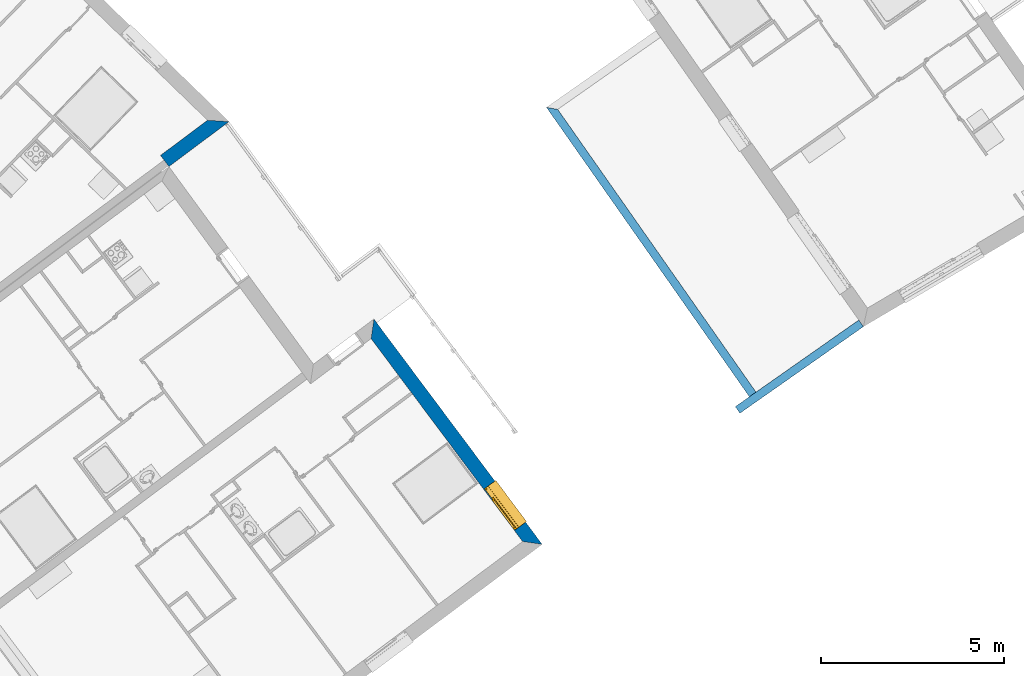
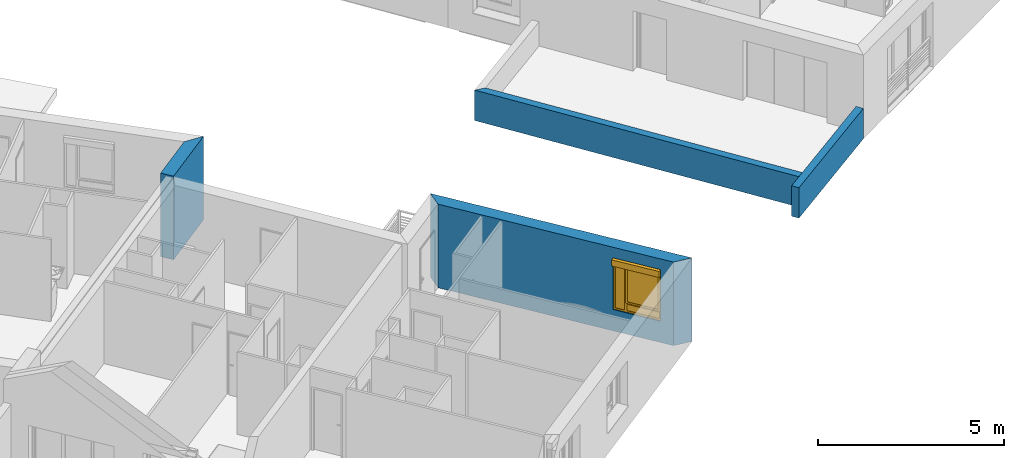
# One storey, part 23 of 121: 4 walls, 1 window, 1 opening.
"""IFC2X3 building model written with IfcOpenShell, lengths in metres."""

from ifc_helpers import new_model, entity, si_unit, converted_unit, derived_unit, money_unit, direction, frame, origin_with_axes, place, context, subcontext, project, spatial, polyline, outline, extrude, open_shell, faceted_brep, surface_model, source, transform, mapped, material, layer, layer_set, layer_usage, type_object, element, fill, save


model = new_model("IFC2X3")

# Units and contexts
model_context = context("Model", 3, precision=1e-05, world=origin_with_axes(), true_north=direction((0.0, 1.0)))
body_context = subcontext(model_context, "Body", "Model", "MODEL_VIEW")
ifc_project = project(units=[si_unit("LENGTHUNIT", "METRE"), si_unit("AREAUNIT", "SQUARE_METRE"), si_unit("VOLUMEUNIT", "CUBIC_METRE"), converted_unit("PLANEANGLEUNIT", "DEGREE", entity("IfcPlaneAngleMeasure", 0.0174532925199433), si_unit("PLANEANGLEUNIT", "RADIAN"), dimensions=[0, 0, 0, 0, 0, 0, 0]), money_unit("CHF"), converted_unit("TIMEUNIT", "Year", entity("IfcTimeMeasure", 31557600.0), si_unit("TIMEUNIT", "SECOND"), dimensions=[0, 0, 1, 0, 0, 0, 0]), si_unit("MASSUNIT", "GRAM", prefix="KILO"), si_unit("THERMODYNAMICTEMPERATUREUNIT", "DEGREE_CELSIUS"), si_unit("LUMINOUSINTENSITYUNIT", "LUMEN"), si_unit("ENERGYUNIT", "JOULE", prefix="MEGA"), derived_unit("THERMALCONDUCTANCEUNIT", [(si_unit("POWERUNIT", "WATT"), 1), (si_unit("LENGTHUNIT", "METRE"), -1), (si_unit("THERMODYNAMICTEMPERATUREUNIT", "KELVIN"), -1)]), derived_unit("SPECIFICHEATCAPACITYUNIT", [(si_unit("ENERGYUNIT", "JOULE"), 1), (si_unit("MASSUNIT", "GRAM", prefix="KILO"), -1), (si_unit("THERMODYNAMICTEMPERATUREUNIT", "KELVIN"), -1)]), derived_unit("MASSDENSITYUNIT", [(si_unit("MASSUNIT", "GRAM", prefix="KILO"), 1), (si_unit("VOLUMEUNIT", "CUBIC_METRE"), -1)])], contexts=[model_context])

# Site, building, storey
site_placement = place(None, origin_with_axes())
site = spatial("IfcSite", under=ifc_project, at=site_placement, Name="Site", CompositionType="ELEMENT")
building_placement = place(site_placement, origin_with_axes())
building = spatial("IfcBuilding", under=site, at=building_placement, Name="Bâtiment", CompositionType="ELEMENT")
storey_placement = place(building_placement, frame((0.0, 0.0, 2.75), z_axis=(0.0, 0.0, 1.0), x_axis=(1.0, 0.0, 0.0)))
storey = spatial("IfcBuildingStorey", under=building, at=storey_placement, Name="Etage 1", CompositionType="ELEMENT", Elevation=2.75)

# Wall
ifc_material_1 = material(Name="Parpaing 312445824")
ifc_layer_1 = layer(ifc_material_1, 0.22, ventilated="UNKNOWN")
ifc_material_2 = material(Name="Isolant styromousse 301821074")
ifc_layer_2 = layer(ifc_material_2, 0.16, ventilated="UNKNOWN")
ifc_layer_set_1 = layer_set([ifc_layer_1, ifc_layer_2], Name="isol int 22+16 0836643197")
ifc_layer_usage_1 = layer_usage(ifc_layer_set_1, "AXIS2", "NEGATIVE", 0.0)
wall_type_1 = type_object("IfcWallType", Name="isol int 22+16 0836643197 380", PredefinedType="NOTDEFINED")
wall_1_placement = place(storey_placement, frame((9539.15053135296, -1068.498546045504, 57.7), z_axis=(0.0, 0.0, 1.0), x_axis=(-0.8011628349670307, -0.5984464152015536, 0.0)))
element("IfcWallStandardCase", 1, at=wall_1_placement, inside=storey, type_object=wall_type_1, material=ifc_layer_usage_1, Name="Mur-116", context=body_context, shape_type="SweptSolid", body=[
    extrude(outline(polyline([(0.4460678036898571, -0.3800000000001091), (2.046921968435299, -0.3800000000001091), (2.046921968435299, 0.0), (0.0, 0.0), (0.4460678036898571, -0.3800000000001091)])), origin_with_axes(), (0.0, 0.0, 1.0), 2.75),
])

# Wall, opening, window
ifc_layer_usage_2 = layer_usage(ifc_layer_set_1, "AXIS2", "NEGATIVE", 0.0)
wall_2_placement = place(storey_placement, frame((9543.102010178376, -1073.884767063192, 57.7), z_axis=(0.0, 0.0, 1.0), x_axis=(0.5984464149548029, -0.8011628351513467, 0.0)))
wall_2 = element("IfcWallStandardCase", 2, at=wall_2_placement, inside=storey, type_object=wall_type_1, material=ifc_layer_usage_2, Name="Mur-114", context=body_context, shape_type="SweptSolid", body=[
    extrude(outline(polyline([(0.3800000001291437, -0.3799999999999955), (7.289914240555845, -0.3799999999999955), (7.66991424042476, 0.0), (0.0, 0.0), (0.3800000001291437, -0.3799999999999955)])), origin_with_axes(), (0.0, 0.0, 1.0), 2.75),
])
opening_placement = place(wall_2_placement, frame((6.213971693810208, 0.0, 0.7000000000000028), z_axis=(0.0, 0.0, 1.0), x_axis=(1.0, 0.0, 0.0)))
opening = element("IfcOpeningElement", 3, at=opening_placement, cuts=wall_2, Name="Fen-045", context=body_context, shape_type="Brep", body=[
    faceted_brep([(-0.7000000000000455, -0.2199999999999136, 1.5), (0.6999999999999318, -0.2200000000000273, 1.5), (0.6999999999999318, 3.678363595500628, 1.5), (-0.7000000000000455, 3.678363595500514, 1.5), (-0.7000000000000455, -0.2199999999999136, 1.700000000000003), (0.6999999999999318, -0.2200000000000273, 1.700000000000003), (0.6999999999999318, -0.2999999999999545, 1.5), (0.6999999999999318, -0.2999999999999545, 0.0), (0.6999999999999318, 3.678363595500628, 0.0), (-0.7000000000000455, 3.678363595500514, 0.0), (-0.6999999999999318, -0.3000000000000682, 1.5), (-0.6999999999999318, -0.3000000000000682, 0.0), (-0.7000000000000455, -0.4800000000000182, 1.5), (-0.7000000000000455, -0.4800000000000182, 1.700000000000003), (0.7000000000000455, -0.4800000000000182, 1.700000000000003), (0.7000000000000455, -0.4800000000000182, 1.5), (0.7000000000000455, -4.058363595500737, 1.5), (0.7000000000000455, -4.058363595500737, 0.0), (-0.7000000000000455, -4.058363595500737, 0.0), (-0.7000000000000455, -4.058363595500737, 1.5)], [[[0, 1, 2, 3]], [[1, 0, 4, 5]], [[1, 6, 7, 8, 2]], [[2, 8, 9, 3]], [[10, 0, 3, 9, 11]], [[0, 10, 12, 13, 4]], [[4, 13, 14, 5]], [[6, 1, 5, 14, 15]], [[6, 15, 16, 17, 7]], [[7, 11, 9, 8]], [[12, 10, 11, 18, 19]], [[12, 15, 14, 13]], [[15, 12, 19, 16]], [[19, 18, 17, 16]], [[11, 7, 17, 18]]]),
])
window_style = type_object("IfcWindowStyle", Name="Fenêtre variable 27", ConstructionType="NOTDEFINED", OperationType="TRIPLE_PANEL_RIGHT", ParameterTakesPrecedence=False, Sizeable=False)
shared_shape = source(origin_with_axes(), body_context, "Body", "SurfaceModel", [
    surface_model("IfcShellBasedSurfaceModel", [(-0.7, -0.05100000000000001, 0.05), (-0.7, -0.05100000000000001, 0.04), (0.7, -0.05100000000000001, 0.04000000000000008), (0.7, -0.05100000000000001, 0.05000000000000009), (-0.7, -0.3799999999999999, 0.02899999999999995), (0.7, -0.3799999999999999, 0.02900000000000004), (-0.7, -0.3799999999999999, 0.008999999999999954), (0.7, -0.3799999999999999, 0.00900000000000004), (-0.7, -0.3699999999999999, 0.01899999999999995), (0.7, -0.3699999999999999, 0.01900000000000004)], [open_shell([[[0, 1, 2, 3]], [[1, 4, 5, 2]], [[4, 6, 7, 5]], [[6, 8, 9, 7]]])]),
    faceted_brep([(-0.7, -0.13, 1.7), (-0.697, -0.13, 1.7), (-0.697, 0.13, 1.7), (-0.7, 0.13, 1.7), (-0.7, -0.13, 1.5), (-0.697, -0.13, 1.5), (-0.697, 0.13, 1.5), (-0.7, 0.13, 1.5)], [[[0, 1, 2, 3]], [[4, 5, 1, 0]], [[1, 5, 6, 2]], [[3, 2, 6, 7]], [[0, 3, 7, 4]], [[7, 6, 5, 4]]]),
    faceted_brep([(0.6970000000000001, -0.1299999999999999, 1.7), (0.7000000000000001, -0.1299999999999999, 1.7), (0.7000000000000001, 0.1300000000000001, 1.7), (0.6970000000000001, 0.1300000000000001, 1.7), (0.6970000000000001, -0.1299999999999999, 1.5), (0.7000000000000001, -0.1299999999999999, 1.5), (0.7000000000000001, 0.1300000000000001, 1.5), (0.6970000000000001, 0.1300000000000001, 1.5)], [[[0, 1, 2, 3]], [[4, 5, 1, 0]], [[1, 5, 6, 2]], [[3, 2, 6, 7]], [[0, 3, 7, 4]], [[7, 6, 5, 4]]]),
    faceted_brep([(-0.697, -0.13, 1.5), (0.697, -0.1299999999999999, 1.5), (0.697, -0.1299999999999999, 1.7), (-0.697, -0.13, 1.7), (-0.697, -0.127, 1.5), (0.697, -0.1269999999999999, 1.5), (0.697, -0.1269999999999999, 1.697), (0.697, 0.1270000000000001, 1.697), (0.697, 0.1270000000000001, 1.503), (0.697, -0.1079999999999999, 1.503), (0.697, -0.1079999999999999, 1.5), (0.697, 0.1300000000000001, 1.5), (0.697, 0.1300000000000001, 1.7), (-0.697, 0.13, 1.7), (-0.697, 0.13, 1.5), (-0.697, -0.108, 1.5), (-0.697, -0.108, 1.503), (-0.697, 0.127, 1.503), (-0.697, 0.127, 1.697), (-0.697, -0.127, 1.697)], [[[0, 1, 2, 3]], [[4, 5, 1, 0]], [[1, 5, 6, 7, 8, 9, 10, 11, 12, 2]], [[3, 2, 12, 13]], [[0, 3, 13, 14, 15, 16, 17, 18, 19, 4]], [[19, 6, 5, 4]], [[18, 7, 6, 19]], [[17, 8, 7, 18]], [[16, 9, 8, 17]], [[15, 10, 9, 16]], [[14, 11, 10, 15]], [[13, 12, 11, 14]]]),
    faceted_brep([(-0.694, -0.08075423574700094, 1.585760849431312), (-0.694, -0.08200000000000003, 1.6), (-0.694, -0.0807542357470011, 1.614239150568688), (-0.694, -0.07705479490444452, 1.628045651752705), (-0.694, -0.07101408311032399, 1.641), (-0.694, -0.06281564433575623, 1.652708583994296), (-0.694, -0.05270858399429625, 1.662815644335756), (-0.694, -0.04100000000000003, 1.671014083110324), (-0.694, -0.02804565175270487, 1.677054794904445), (-0.694, -0.01423915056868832, 1.680754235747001), (-0.694, 0.0, 1.682), (-0.694, 0.01423915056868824, 1.680754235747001), (-0.694, 0.02804565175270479, 1.677054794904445), (-0.694, 0.04099999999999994, 1.671014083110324), (-0.694, 0.05270858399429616, 1.662815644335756), (-0.694, 0.06281564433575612, 1.652708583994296), (-0.694, 0.07101408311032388, 1.641), (-0.694, 0.0770547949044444, 1.628045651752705), (-0.694, 0.08075423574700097, 1.614239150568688), (-0.694, 0.0819999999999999, 1.6), (-0.694, 0.08075423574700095, 1.585760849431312), (-0.694, 0.07705479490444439, 1.571954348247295), (-0.694, 0.07101408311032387, 1.559), (-0.694, 0.06281564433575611, 1.547291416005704), (-0.694, 0.05270858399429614, 1.537184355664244), (-0.694, 0.04099999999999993, 1.528985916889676), (-0.694, 0.02804565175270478, 1.522945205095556), (-0.694, 0.01423915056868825, 1.519245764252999), (-0.694, 0.0, 1.518), (-0.694, -0.01423915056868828, 1.519245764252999), (-0.694, -0.02804565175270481, 1.522945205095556), (-0.694, -0.04099999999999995, 1.528985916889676), (-0.694, -0.05270858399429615, 1.537184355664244), (-0.694, -0.06281564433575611, 1.547291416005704), (-0.694, -0.07101408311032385, 1.559), (-0.694, -0.07705479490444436, 1.571954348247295), (0.694, -0.08075423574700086, 1.585760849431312), (0.694, -0.08199999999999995, 1.6), (0.694, -0.08075423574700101, 1.614239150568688), (0.694, -0.07705479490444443, 1.628045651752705), (0.694, -0.07101408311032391, 1.641), (0.694, -0.06281564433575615, 1.652708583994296), (0.694, -0.05270858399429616, 1.662815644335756), (0.694, -0.04099999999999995, 1.671014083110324), (0.694, -0.02804565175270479, 1.677054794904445), (0.694, -0.01423915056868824, 1.680754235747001), (0.694, 0.0, 1.682), (0.694, 0.01423915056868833, 1.680754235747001), (0.694, 0.02804565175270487, 1.677054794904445), (0.694, 0.04100000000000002, 1.671014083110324), (0.694, 0.05270858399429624, 1.662815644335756), (0.694, 0.0628156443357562, 1.652708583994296), (0.694, 0.07101408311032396, 1.641), (0.694, 0.07705479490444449, 1.628045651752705), (0.694, 0.08075423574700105, 1.614239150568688), (0.694, 0.08199999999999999, 1.6), (0.694, 0.08075423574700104, 1.585760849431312), (0.694, 0.07705479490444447, 1.571954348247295), (0.694, 0.07101408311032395, 1.559), (0.694, 0.06281564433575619, 1.547291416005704), (0.694, 0.05270858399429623, 1.537184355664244), (0.694, 0.04100000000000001, 1.528985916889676), (0.694, 0.02804565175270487, 1.522945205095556), (0.694, 0.01423915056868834, 1.519245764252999), (0.694, 0.0, 1.518), (0.694, -0.0142391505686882, 1.519245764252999), (0.694, -0.02804565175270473, 1.522945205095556), (0.694, -0.04099999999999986, 1.528985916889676), (0.694, -0.05270858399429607, 1.537184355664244), (0.694, -0.06281564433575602, 1.547291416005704), (0.694, -0.07101408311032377, 1.559), (0.694, -0.07705479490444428, 1.571954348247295)], [[[0, 1, 2, 3, 4, 5, 6, 7, 8, 9, 10, 11, 12, 13, 14, 15, 16, 17, 18, 19, 20, 21, 22, 23, 24, 25, 26, 27, 28, 29, 30, 31, 32, 33, 34, 35]], [[0, 36, 37, 1]], [[1, 37, 38, 2]], [[2, 38, 39, 3]], [[3, 39, 40, 4]], [[4, 40, 41, 5]], [[5, 41, 42, 6]], [[6, 42, 43, 7]], [[7, 43, 44, 8]], [[8, 44, 45, 9]], [[9, 45, 46, 10]], [[10, 46, 47, 11]], [[11, 47, 48, 12]], [[12, 48, 49, 13]], [[13, 49, 50, 14]], [[14, 50, 51, 15]], [[15, 51, 52, 16]], [[16, 52, 53, 17]], [[17, 53, 54, 18]], [[18, 54, 55, 19]], [[19, 55, 56, 20]], [[20, 56, 57, 21]], [[21, 57, 58, 22]], [[22, 58, 59, 23]], [[23, 59, 60, 24]], [[24, 60, 61, 25]], [[25, 61, 62, 26]], [[26, 62, 63, 27]], [[27, 63, 64, 28]], [[28, 64, 65, 29]], [[29, 65, 66, 30]], [[30, 66, 67, 31]], [[31, 67, 68, 32]], [[32, 68, 69, 33]], [[33, 69, 70, 34]], [[34, 70, 71, 35]], [[35, 71, 36, 0]], [[36, 71, 70, 69, 68, 67, 66, 65, 64, 63, 62, 61, 60, 59, 58, 57, 56, 55, 54, 53, 52, 51, 50, 49, 48, 47, 46, 45, 44, 43, 42, 41, 40, 39, 38, 37]]]),
    faceted_brep([(0.7, -0.105, 0.03), (0.7, -0.1049999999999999, 1.5), (0.7, -0.1299999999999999, 1.5), (0.7, -0.13, 0.03), (0.6749999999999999, -0.105, 0.03), (0.6749999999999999, -0.1049999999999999, 1.5), (0.6749999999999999, -0.1079999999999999, 1.5), (0.697, -0.1079999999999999, 1.5), (0.697, -0.1269999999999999, 1.5), (0.6749999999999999, -0.1269999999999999, 1.5), (0.6749999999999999, -0.1299999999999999, 1.5), (0.6749999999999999, -0.13, 0.03), (0.6749999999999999, -0.127, 0.03), (0.697, -0.127, 0.03), (0.697, -0.108, 0.03), (0.6749999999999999, -0.108, 0.03)], [[[0, 1, 2, 3]], [[4, 5, 1, 0]], [[1, 5, 6, 7, 8, 9, 10, 2]], [[3, 2, 10, 11]], [[0, 3, 11, 12, 13, 14, 15, 4]], [[15, 6, 5, 4]], [[14, 7, 6, 15]], [[13, 8, 7, 14]], [[12, 9, 8, 13]], [[11, 10, 9, 12]]]),
    faceted_brep([(-0.7, -0.105, 0.03), (-0.7, -0.13, 0.03), (-0.7, -0.1299999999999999, 1.5), (-0.7, -0.1049999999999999, 1.5), (-0.6749999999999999, -0.105, 0.03), (-0.6749999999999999, -0.108, 0.03), (-0.697, -0.108, 0.03), (-0.697, -0.127, 0.03), (-0.6749999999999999, -0.127, 0.03), (-0.6749999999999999, -0.13, 0.03), (-0.6749999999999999, -0.1299999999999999, 1.5), (-0.6749999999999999, -0.1269999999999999, 1.5), (-0.697, -0.1269999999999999, 1.5), (-0.697, -0.1079999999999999, 1.5), (-0.6749999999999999, -0.1079999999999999, 1.5), (-0.6749999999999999, -0.1049999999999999, 1.5)], [[[0, 1, 2, 3]], [[0, 4, 5, 6, 7, 8, 9, 1]], [[1, 9, 10, 2]], [[3, 2, 10, 11, 12, 13, 14, 15]], [[4, 0, 3, 15]], [[5, 4, 15, 14]], [[6, 5, 14, 13]], [[7, 6, 13, 12]], [[8, 7, 12, 11]], [[9, 8, 11, 10]]]),
    surface_model("IfcShellBasedSurfaceModel", [(-0.697, -0.115, 1.6), (0.697, -0.1149999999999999, 1.6), (0.697, -0.1199999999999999, 1.6), (-0.697, -0.12, 1.6), (-0.697, -0.115, 1.6), (-0.697, -0.12, 1.6), (0.697, -0.12, 1.6), (0.697, -0.1149999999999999, 1.6)], [open_shell([[[0, 1, 2, 3]], [[4, 5, 6, 7]]])]),
    faceted_brep([(-0.697, -0.115, 1.6), (0.697, -0.1149999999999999, 1.6), (0.697, -0.1166666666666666, 1.583333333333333), (-0.697, -0.1166666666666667, 1.583333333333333), (-0.697, -0.12, 1.6), (0.697, -0.1199999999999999, 1.6), (0.697, -0.1216666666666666, 1.583333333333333), (0.697, -0.1216666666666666, 1.566666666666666), (0.697, -0.1199999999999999, 1.55), (0.697, -0.1149999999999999, 1.55), (0.697, -0.1166666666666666, 1.566666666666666), (-0.697, -0.1166666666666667, 1.566666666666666), (-0.697, -0.115, 1.55), (-0.697, -0.12, 1.55), (-0.697, -0.1216666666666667, 1.566666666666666), (-0.697, -0.1216666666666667, 1.583333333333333)], [[[0, 1, 2, 3]], [[4, 5, 1, 0]], [[1, 5, 6, 7, 8, 9, 10, 2]], [[3, 2, 10, 11]], [[0, 3, 11, 12, 13, 14, 15, 4]], [[15, 6, 5, 4]], [[14, 7, 6, 15]], [[13, 8, 7, 14]], [[12, 9, 8, 13]], [[11, 10, 9, 12]]]),
    faceted_brep([(-0.697, -0.115, 1.55), (0.697, -0.1149999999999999, 1.55), (0.697, -0.1166666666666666, 1.533333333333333), (-0.697, -0.1166666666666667, 1.533333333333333), (-0.697, -0.12, 1.55), (0.697, -0.1199999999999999, 1.55), (0.697, -0.1216666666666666, 1.533333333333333), (0.697, -0.1216666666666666, 1.516666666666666), (0.697, -0.1199999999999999, 1.5), (0.697, -0.1149999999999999, 1.5), (0.697, -0.1166666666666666, 1.516666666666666), (-0.697, -0.1166666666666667, 1.516666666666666), (-0.697, -0.115, 1.5), (-0.697, -0.12, 1.5), (-0.697, -0.1216666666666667, 1.516666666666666), (-0.697, -0.1216666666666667, 1.533333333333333)], [[[0, 1, 2, 3]], [[4, 5, 1, 0]], [[1, 5, 6, 7, 8, 9, 10, 2]], [[3, 2, 10, 11]], [[0, 3, 11, 12, 13, 14, 15, 4]], [[15, 6, 5, 4]], [[14, 7, 6, 15]], [[13, 8, 7, 14]], [[12, 9, 8, 13]], [[11, 10, 9, 12]]]),
    faceted_brep([(-0.6749999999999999, 0.0, 1.45), (-0.7, 0.0, 1.45), (-0.7, -0.05000000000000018, 1.45), (-0.6499999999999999, -0.05000000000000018, 1.45), (-0.6499999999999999, -0.02500000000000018, 1.45), (-0.6749999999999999, -0.02500000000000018, 1.45), (-0.6749999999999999, 0.0, 0.3099999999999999), (-0.6499999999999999, 0.0, 0.3099999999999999), (-0.6499999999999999, 0.0, 0.265), (-0.6499999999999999, 0.0, 0.05000000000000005), (-0.7, 0.0, 0.05000000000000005), (-0.7, -0.05000000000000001, 0.05000000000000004), (-0.6499999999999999, -0.05000000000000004, 0.335), (-0.6499999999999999, -0.05000000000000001, 0.05000000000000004), (-0.6499999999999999, -0.05000000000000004, 0.265), (-0.6499999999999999, -0.02500000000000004, 0.335), (-0.6499999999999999, -0.02500000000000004, 0.3099999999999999), (-0.6749999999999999, -0.02500000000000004, 0.3099999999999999)], [[[0, 1, 2, 3, 4, 5]], [[6, 7, 8, 9, 10, 1, 0]], [[1, 10, 11, 2]], [[12, 3, 2, 11, 13, 14]], [[4, 3, 12, 15]], [[15, 16, 17, 5, 4]], [[5, 17, 6, 0]], [[6, 17, 16, 7]], [[16, 15, 12, 14, 8, 7]], [[9, 8, 14, 13]], [[10, 9, 13, 11]]]),
    faceted_brep([(0.3068894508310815, -0.02500000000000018, 1.45), (0.3068894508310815, -0.05000000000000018, 1.45), (0.3768894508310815, -0.05000000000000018, 1.45), (0.3768894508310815, 0.0, 1.45), (0.3318894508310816, 0.0, 1.45), (0.3318894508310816, -0.02500000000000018, 1.45), (0.3068894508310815, -0.02500000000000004, 0.335), (0.3068894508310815, -0.05000000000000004, 0.335), (0.3068894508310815, -0.05000000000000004, 0.265), (0.3068894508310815, -0.05000000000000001, 0.05000000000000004), (0.3768894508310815, -0.05000000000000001, 0.05000000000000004), (0.3768894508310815, 0.0, 0.05000000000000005), (0.3318894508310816, 0.0, 0.3099999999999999), (0.3068894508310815, 0.0, 0.05000000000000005), (0.3068894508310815, 0.0, 0.265), (0.3068894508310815, 0.0, 0.3099999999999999), (0.3318894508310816, -0.02500000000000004, 0.3099999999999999), (0.3068894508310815, -0.02500000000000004, 0.3099999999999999)], [[[0, 1, 2, 3, 4, 5]], [[6, 7, 1, 0]], [[8, 9, 10, 2, 1, 7]], [[11, 3, 2, 10]], [[12, 4, 3, 11, 13, 14, 15]], [[12, 16, 5, 4]], [[5, 16, 17, 6, 0]], [[17, 15, 14, 8, 7, 6]], [[14, 13, 9, 8]], [[13, 11, 10, 9]], [[15, 17, 16, 12]]]),
    faceted_brep([(-0.6499999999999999, -0.02500000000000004, 0.335), (-0.6499999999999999, -0.05000000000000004, 0.335), (0.3068894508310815, -0.05000000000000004, 0.335), (0.3068894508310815, -0.02500000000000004, 0.335), (-0.6499999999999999, -0.02500000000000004, 0.3099999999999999), (-0.6499999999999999, 0.0, 0.3099999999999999), (-0.6499999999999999, 0.0, 0.265), (-0.6499999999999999, -0.05000000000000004, 0.265), (0.3068894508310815, -0.05000000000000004, 0.265), (0.3068894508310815, -0.02500000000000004, 0.3099999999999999), (0.3068894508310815, 0.0, 0.265), (0.3068894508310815, 0.0, 0.3099999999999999)], [[[0, 1, 2, 3]], [[4, 5, 6, 7, 1, 0]], [[2, 1, 7, 8]], [[9, 3, 2, 8, 10, 11]], [[9, 4, 0, 3]], [[5, 4, 9, 11]], [[11, 10, 6, 5]], [[6, 10, 8, 7]]]),
    faceted_brep([(-0.6749999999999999, 0.0, 1.45), (-0.7, 0.0, 1.45), (-0.7, 0.0, 1.5), (0.7, 0.0, 1.5), (0.7, 0.0, 1.45), (0.6499999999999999, 0.0, 1.45), (0.3768894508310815, 0.0, 1.45), (0.3318894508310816, 0.0, 1.45), (0.3318894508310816, 0.0, 1.475), (-0.6749999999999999, 0.0, 1.475), (-0.6749999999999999, -0.02500000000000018, 1.45), (-0.6499999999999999, -0.02500000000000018, 1.45), (-0.6499999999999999, -0.05000000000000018, 1.45), (-0.7, -0.05000000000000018, 1.45), (-0.7, -0.05000000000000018, 1.5), (0.7, -0.05000000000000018, 1.5), (0.7, -0.05000000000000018, 1.45), (0.6499999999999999, -0.05000000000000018, 1.45), (0.3768894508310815, -0.05000000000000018, 1.45), (0.3318894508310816, -0.02500000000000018, 1.45), (0.3068894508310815, -0.05000000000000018, 1.45), (0.3068894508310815, -0.02500000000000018, 1.45), (0.3318894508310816, -0.02500000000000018, 1.475), (-0.6749999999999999, -0.02500000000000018, 1.475)], [[[0, 1, 2, 3, 4, 5, 6, 7, 8, 9]], [[10, 11, 12, 13, 1, 0]], [[2, 1, 13, 14]], [[3, 2, 14, 15]], [[4, 3, 15, 16]], [[5, 4, 16, 17]], [[6, 5, 17, 18]], [[19, 7, 6, 18, 20, 21]], [[7, 19, 22, 8]], [[8, 22, 23, 9]], [[9, 23, 10, 0]], [[21, 11, 10, 23, 22, 19]], [[21, 20, 12, 11]], [[18, 17, 16, 15, 14, 13, 12, 20]]]),
    faceted_brep([(0.6499999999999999, -0.05000000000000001, 0.05), (0.6499999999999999, 0.0, 0.05000000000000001), (0.7, 0.0, 0.05000000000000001), (0.7, -0.05000000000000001, 0.05), (0.6499999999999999, -0.05000000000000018, 1.45), (0.6499999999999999, 0.0, 1.45), (0.7, 0.0, 1.45), (0.7, -0.05000000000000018, 1.45)], [[[0, 1, 2, 3]], [[4, 5, 1, 0]], [[1, 5, 6, 2]], [[3, 2, 6, 7]], [[0, 3, 7, 4]], [[7, 6, 5, 4]]]),
    faceted_brep([(-0.6499999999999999, -0.05000000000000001, 0.05), (-0.6499999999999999, 0.0, 0.05000000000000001), (-0.7, 0.0, 0.05000000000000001), (-0.7, -0.05000000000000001, 0.05), (0.3068894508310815, -0.05000000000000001, 0.05), (0.3068894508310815, 0.0, 0.05000000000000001), (0.3768894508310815, 0.0, 0.05000000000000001), (0.6499999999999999, 0.0, 0.05000000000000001), (0.7, 0.0, 0.05000000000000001), (0.7, 0.0, 0.0), (-0.7, 0.0, 0.0), (-0.7, -0.05, 0.0), (0.7, -0.05, 0.0), (0.7, -0.05000000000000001, 0.05), (0.6499999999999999, -0.05000000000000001, 0.05), (0.3768894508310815, -0.05000000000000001, 0.05)], [[[0, 1, 2, 3]], [[4, 5, 1, 0]], [[1, 5, 6, 7, 8, 9, 10, 2]], [[3, 2, 10, 11]], [[0, 3, 11, 12, 13, 14, 15, 4]], [[15, 6, 5, 4]], [[14, 7, 6, 15]], [[13, 8, 7, 14]], [[12, 9, 8, 13]], [[11, 10, 9, 12]]]),
    faceted_brep([(-0.625, -0.02500000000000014, 1.425), (-0.625, 0.02499999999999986, 1.425), (-0.6749999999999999, 0.02499999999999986, 1.425), (-0.6749999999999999, -0.02500000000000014, 1.425), (-0.625, -0.02500000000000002, 0.3599999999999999), (-0.625, 0.02499999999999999, 0.3599999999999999), (-0.6749999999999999, 0.02499999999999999, 0.3599999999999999), (-0.6749999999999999, -0.02500000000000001, 0.3599999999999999)], [[[0, 1, 2, 3]], [[4, 5, 1, 0]], [[1, 5, 6, 2]], [[3, 2, 6, 7]], [[0, 3, 7, 4]], [[7, 6, 5, 4]]]),
    faceted_brep([(0.2818894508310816, -0.02500000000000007, 0.3599999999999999), (0.2818894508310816, 0.02499999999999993, 0.3599999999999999), (0.3318894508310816, 0.02499999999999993, 0.3599999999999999), (0.3318894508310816, -0.02500000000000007, 0.3599999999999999), (0.2818894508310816, -0.0250000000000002, 1.425), (0.2818894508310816, 0.0249999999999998, 1.425), (0.3318894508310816, 0.0249999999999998, 1.425), (0.3318894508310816, -0.0250000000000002, 1.425)], [[[0, 1, 2, 3]], [[4, 5, 1, 0]], [[1, 5, 6, 2]], [[3, 2, 6, 7]], [[0, 3, 7, 4]], [[7, 6, 5, 4]]]),
    faceted_brep([(0.3318894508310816, -0.02500000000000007, 0.3099999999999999), (0.3318894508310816, 0.02499999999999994, 0.3099999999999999), (0.3318894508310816, 0.02499999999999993, 0.3599999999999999), (0.3318894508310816, -0.02500000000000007, 0.3599999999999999), (-0.6749999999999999, -0.025, 0.3099999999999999), (-0.6749999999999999, 0.02499999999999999, 0.3099999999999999), (-0.6749999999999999, 0.02499999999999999, 0.3599999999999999), (-0.625, 0.02499999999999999, 0.3599999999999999), (0.2818894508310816, 0.02499999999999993, 0.3599999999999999), (0.2818894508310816, -0.02500000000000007, 0.3599999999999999), (-0.625, -0.02500000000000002, 0.3599999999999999), (-0.6749999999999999, -0.02500000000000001, 0.3599999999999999)], [[[0, 1, 2, 3]], [[4, 5, 1, 0]], [[1, 5, 6, 7, 8, 2]], [[3, 2, 8, 9]], [[0, 3, 9, 10, 11, 4]], [[11, 6, 5, 4]], [[10, 7, 6, 11]], [[9, 8, 7, 10]]]),
    faceted_brep([(-0.6749999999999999, -0.02500000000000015, 1.475), (-0.6749999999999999, 0.02499999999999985, 1.475), (-0.6749999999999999, 0.02499999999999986, 1.425), (-0.6749999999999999, -0.02500000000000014, 1.425), (0.3318894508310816, -0.02500000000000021, 1.475), (0.3318894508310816, 0.02499999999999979, 1.475), (0.3318894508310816, 0.0249999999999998, 1.425), (0.2818894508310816, 0.0249999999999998, 1.425), (-0.625, 0.02499999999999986, 1.425), (-0.625, -0.02500000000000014, 1.425), (0.2818894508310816, -0.0250000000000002, 1.425), (0.3318894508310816, -0.0250000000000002, 1.425)], [[[0, 1, 2, 3]], [[4, 5, 1, 0]], [[1, 5, 6, 7, 8, 2]], [[3, 2, 8, 9]], [[0, 3, 9, 10, 11, 4]], [[11, 6, 5, 4]], [[10, 7, 6, 11]], [[9, 8, 7, 10]]]),
    surface_model("IfcShellBasedSurfaceModel", [(-0.625, -0.01000000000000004, 0.3599999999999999), (0.2818894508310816, -0.01000000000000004, 0.3599999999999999), (0.2818894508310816, -0.01000000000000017, 1.425), (-0.625, -0.01000000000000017, 1.425)], [open_shell([[[0, 1, 2, 3]]])]),
    surface_model("IfcShellBasedSurfaceModel", [(-0.625, 0.009999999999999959, 0.3599999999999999), (-0.625, 0.00999999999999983, 1.425), (0.2818894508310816, 0.00999999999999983, 1.425), (0.2818894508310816, 0.009999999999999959, 0.3599999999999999)], [open_shell([[[0, 1, 2, 3]]])]),
    surface_model("IfcShellBasedSurfaceModel", [(0.3768894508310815, -0.035, 0.05), (0.65, -0.035, 0.05), (0.65, -0.03500000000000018, 1.45), (0.3768894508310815, -0.03500000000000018, 1.45)], [open_shell([[[0, 1, 2, 3]]])]),
    surface_model("IfcShellBasedSurfaceModel", [(0.3768894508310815, -0.015, 0.05), (0.3768894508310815, -0.01500000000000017, 1.45), (0.65, -0.01500000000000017, 1.45), (0.65, -0.015, 0.05)], [open_shell([[[0, 1, 2, 3]]])]),
    surface_model("IfcShellBasedSurfaceModel", [(-0.6499999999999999, -0.035, 0.05), (0.3068894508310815, -0.035, 0.05), (0.3068894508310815, -0.03500000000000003, 0.265), (-0.6499999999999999, -0.03500000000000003, 0.265)], [open_shell([[[0, 1, 2, 3]]])]),
    surface_model("IfcShellBasedSurfaceModel", [(-0.6499999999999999, -0.015, 0.05), (-0.6499999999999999, -0.01500000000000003, 0.265), (0.3068894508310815, -0.01500000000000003, 0.265), (0.3068894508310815, -0.015, 0.05)], [open_shell([[[0, 1, 2, 3]]])]),
])
window_placement = place(opening_placement, frame((0.6999999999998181, 0.0, 0.0), z_axis=(0.0, 0.0, 1.0), x_axis=(-1.0, 0.0, 0.0)))
window = element("IfcWindow", 4, at=window_placement, inside=storey, type_object=window_style, Name="Fen-045", OverallHeight=1.5, OverallWidth=1.4, context=body_context, shape_type="MappedRepresentation", body=[
    mapped(shared_shape, transform((0.6999999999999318, 0.3500000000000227, 0.0))),
])
fill(opening, window)

# Walls
ifc_material_3 = material(Name="Empty Fill 3000033799")
ifc_layer_3 = layer(ifc_material_3, 0.22, ventilated="UNKNOWN")
ifc_layer_set_2 = layer_set([ifc_layer_3], Name="acrotère 22")
ifc_layer_usage_3 = layer_usage(ifc_layer_set_2, "AXIS2", "POSITIVE", 0.0)
wall_type_2 = type_object("IfcWallType", Name="acrotère 22 220", PredefinedType="NOTDEFINED")
wall_3_placement = place(storey_placement, frame((9553.085748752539, -1076.453181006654, 57.7), z_axis=(0.0, 0.0, 1.0), x_axis=(0.8187432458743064, 0.5741598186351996, 0.0)))
element("IfcWallStandardCase", 5, at=wall_3_placement, inside=storey, type_object=wall_type_2, material=ifc_layer_usage_3, Name="Mur-106", context=body_context, shape_type="SweptSolid", body=[
    extrude(outline(polyline([(0.0, 0.0), (4.1143869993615, 0.0), (4.1143869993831, 0.2200000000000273), (0.0, 0.2200000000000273), (0.0, 0.0)])), origin_with_axes(), (0.0, 0.0, 1.0), 1.0),
])
ifc_layer_usage_4 = layer_usage(ifc_layer_set_2, "AXIS2", "POSITIVE", 0.0)
wall_4_placement = place(storey_placement, frame((9547.809377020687, -1068.11089280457, 57.7), z_axis=(0.0, 0.0, 1.0), x_axis=(0.5741598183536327, -0.8187432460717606, 0.0)))
element("IfcWallStandardCase", 6, at=wall_4_placement, inside=storey, type_object=wall_type_2, material=ifc_layer_usage_4, Name="Mur-105", context=body_context, shape_type="SweptSolid", body=[
    extrude(outline(polyline([(0.0, 0.0), (9.63967275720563, 0.0), (9.639672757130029, 0.2199999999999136), (0.2200000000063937, 0.2199999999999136), (0.0, 0.0)])), origin_with_axes(), (0.0, 0.0, 1.0), 1.0),
])

save(model, "model.ifc")
